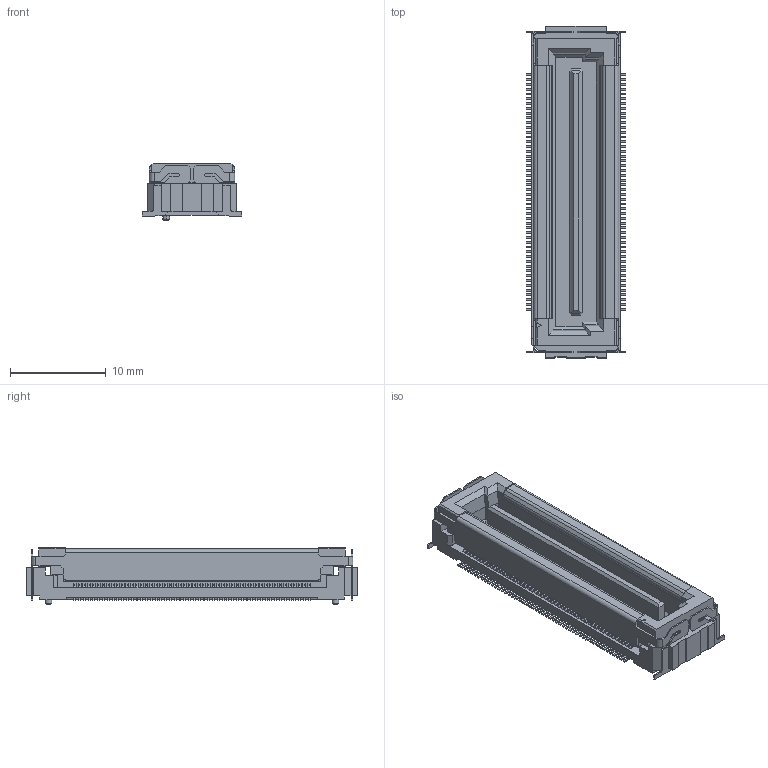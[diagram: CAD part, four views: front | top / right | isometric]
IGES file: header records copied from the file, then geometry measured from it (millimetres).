
Start section: Elysium IGES Interface
Global section: file name: C:\Users\1390\Desktop\P3D581_DT01S-100S-T.igs; native system: Creo Elements/Direct Modeling 20.6  25-Mar-2023; preprocessor: Creo Element/Direct IGES_3D V2.2; author: Unknown; organization: Unknown; date: 20230822.165517; units: millimetre
Bounding box: 10.38 x 34.7 x 5.95 mm (x, y, z)
Volume: 1065.4 mm3; surface area: 2005.3 mm2
Topology: 1 solids, 1 shells, 2412 faces, 6905 edges, 4594 vertices
Faces by surface type: bspline 2412
